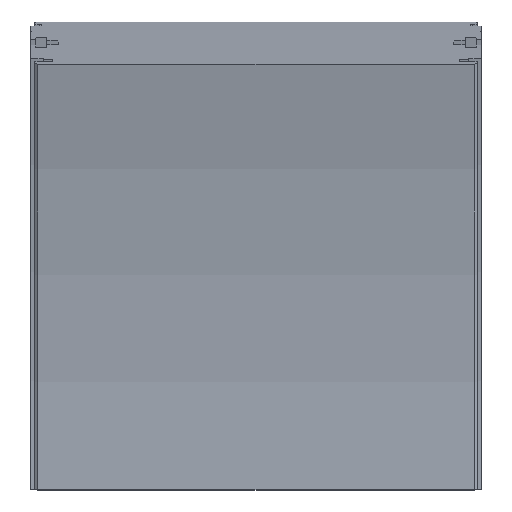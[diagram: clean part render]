
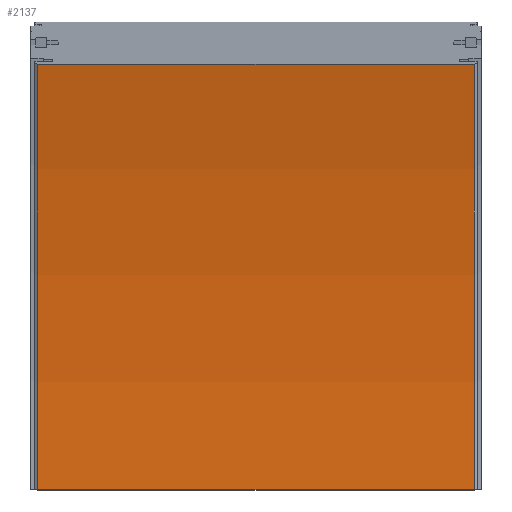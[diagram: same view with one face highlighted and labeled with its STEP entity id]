
A CAD part, top view. The second image highlights one B-rep face of the part: STEP entity #2137.
In plain terms, the highlighted cylindrical face has radius 818 mm (diameter 1636 mm), a partial arc.
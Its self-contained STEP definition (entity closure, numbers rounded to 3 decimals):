
#62=CYLINDRICAL_SURFACE('',#2337,818.);
#225=CIRCLE('',#2336,818.);
#226=CIRCLE('',#2338,818.);
#336=FACE_OUTER_BOUND('',#454,.T.);
#454=EDGE_LOOP('',(#1769,#1770,#1771,#1772));
#615=LINE('',#8201,#793);
#616=LINE('',#8203,#794);
#793=VECTOR('',#2838,10.);
#794=VECTOR('',#2839,10.);
#1005=VERTEX_POINT('',#8194);
#1006=VERTEX_POINT('',#8196);
#1007=VERTEX_POINT('',#8200);
#1008=VERTEX_POINT('',#8202);
#1304=EDGE_CURVE('',#1005,#1006,#225,.T.);
#1305=EDGE_CURVE('',#1007,#1005,#615,.T.);
#1306=EDGE_CURVE('',#1008,#1006,#616,.T.);
#1307=EDGE_CURVE('',#1007,#1008,#226,.T.);
#1769=ORIENTED_EDGE('',*,*,#1305,.T.);
#1770=ORIENTED_EDGE('',*,*,#1304,.T.);
#1771=ORIENTED_EDGE('',*,*,#1306,.F.);
#1772=ORIENTED_EDGE('',*,*,#1307,.F.);
#2137=ADVANCED_FACE('',(#336),#62,.F.);
#2336=AXIS2_PLACEMENT_3D('',#8198,#2834,#2835);
#2337=AXIS2_PLACEMENT_3D('',#8199,#2836,#2837);
#2338=AXIS2_PLACEMENT_3D('',#8204,#2840,#2841);
#2834=DIRECTION('center_axis',(1.,0.,0.));
#2835=DIRECTION('ref_axis',(0.,0.,-1.));
#2836=DIRECTION('center_axis',(1.,0.,0.));
#2837=DIRECTION('ref_axis',(0.,0.,-1.));
#2838=DIRECTION('',(1.,0.,0.));
#2839=DIRECTION('',(1.,0.,0.));
#2840=DIRECTION('center_axis',(1.,0.,0.));
#2841=DIRECTION('ref_axis',(0.,0.,
-1.));
#8194=CARTESIAN_POINT('',(108.5,0.,42.));
#8196=CARTESIAN_POINT('',(108.5,211.714,69.873));
#8198=CARTESIAN_POINT('Origin',(108.5,0.,860.));
#8199=CARTESIAN_POINT('Origin',(-54.25,0.,860.));
#8200=CARTESIAN_POINT('',(-108.5,0.,42.));
#8201=CARTESIAN_POINT('',(-108.5,0.,42.));
#8202=CARTESIAN_POINT('',(-108.5,211.714,69.873));
#8203=CARTESIAN_POINT('',(-108.5,211.714,69.873));
#8204=CARTESIAN_POINT('Origin',(-108.5,0.,860.));
